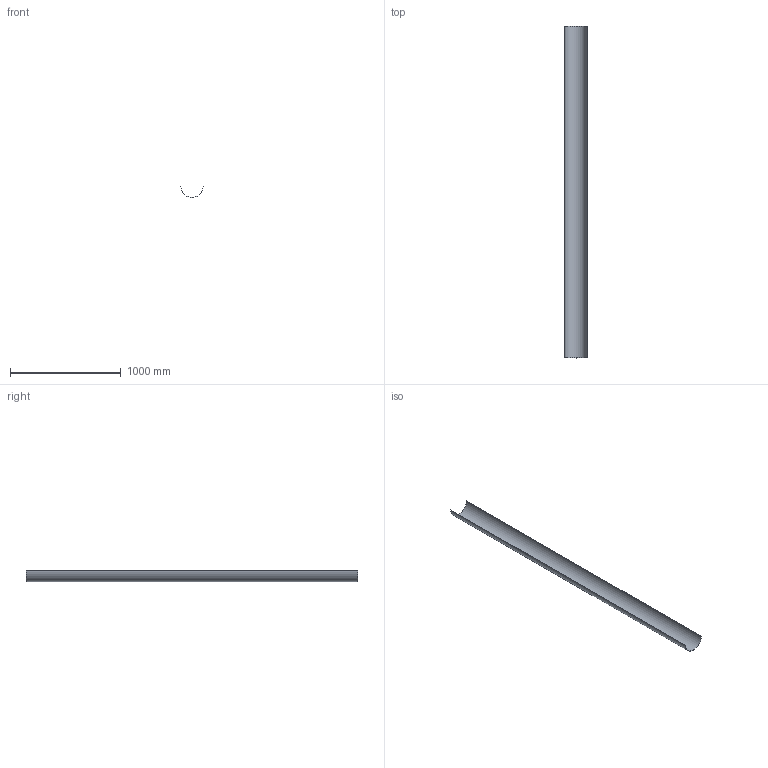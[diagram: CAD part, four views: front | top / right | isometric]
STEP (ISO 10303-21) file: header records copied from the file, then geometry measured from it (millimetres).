
FILE_DESCRIPTION(/* description */ (''),/* implementation_level */ '2;1');
FILE_NAME(/* name */ 'Z:\Geberit\Export\NewStep\370850.stp',/* time_stamp */ '2014-04-02T08:04:46+02:00',/* author */ ('bruh'),/* organization */ (''),/* preprocessor_version */ 'ST-DEVELOPER v15.2',/* originating_system */ 'Autodesk Inventor 2014',/* authorisation */ '');
FILE_SCHEMA (('AUTOMOTIVE_DESIGN { 1 0 10303 214 3 1 1 }'));
Length unit declared in the file: millimetre
Products named in the file (1): 370850
Bounding box: 201.5 x 3000 x 100.75 mm (x, y, z)
Volume: 709509.1 mm3; surface area: 1896997.2 mm2
Topology: 1 solids, 1 shells, 6 faces, 12 edges, 8 vertices
Faces by surface type: plane 4, cylinder 2
Entity records: 187 total; most frequent: DIRECTION 30, CARTESIAN_POINT 27, ORIENTED_EDGE 24, EDGE_CURVE 12, AXIS2_PLACEMENT_3D 11, LINE 8, VECTOR 8, VERTEX_POINT 8
